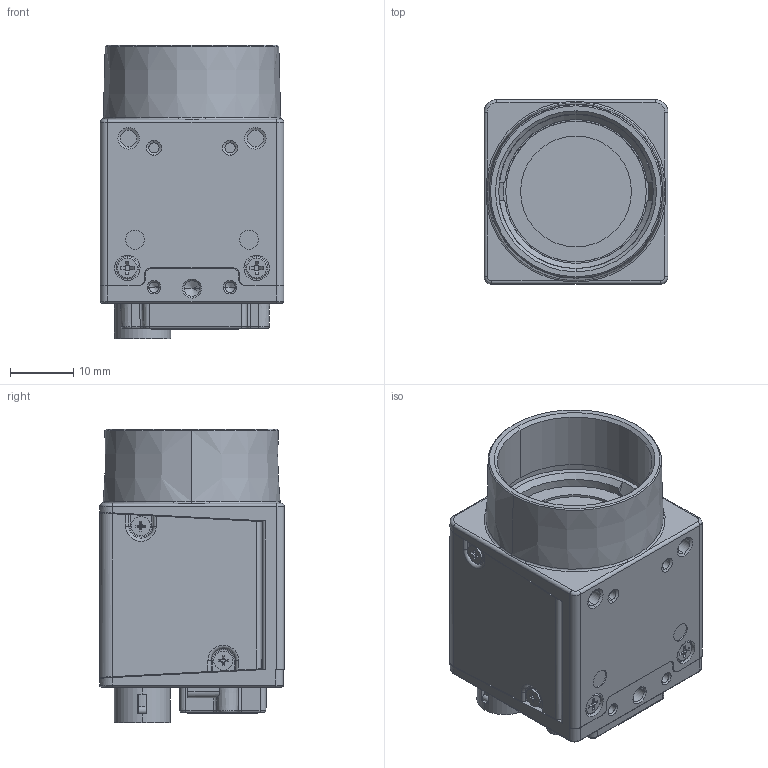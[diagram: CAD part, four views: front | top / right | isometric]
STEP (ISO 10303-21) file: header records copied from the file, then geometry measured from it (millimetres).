
FILE_DESCRIPTION((''),'2;1');
FILE_NAME('DH3-0694-6360_1','2023-11-25T15:07:37',('21511'),(''),'CREO PARAMETRIC BY PTC INC, 2020184','CREO PARAMETRIC BY PTC INC, 2020184','');
FILE_SCHEMA(('CONFIG_CONTROL_DESIGN','SHAPE_APPEARANCE_LAYERS_GROUPS'));
Products named in the file (1): DH3-0694-6360_1
Bounding box: 29 x 29.13 x 46.26 mm (x, y, z)
Volume: 24765.4 mm3; surface area: 11564.9 mm2
Topology: 1 solids, 11 shells, 1515 faces, 4226 edges, 2741 vertices
Faces by surface type: plane 826, cylinder 396, bspline 137, cone 99, torus 40, extrusion 13, sphere 4
Entity records: 69206 total; most frequent: CARTESIAN_POINT 14552, ORIENTED_EDGE 8432, DIRECTION 7528, PRESENTATION_STYLE_ASSIGNMENT 4661, STYLED_ITEM 4223, CURVE_STYLE 4222, EDGE_CURVE 4216, VECTOR 2902
